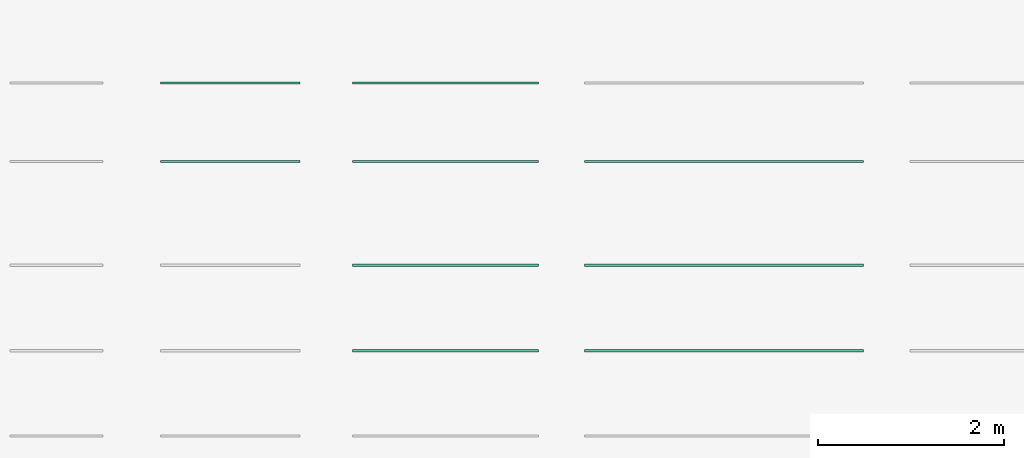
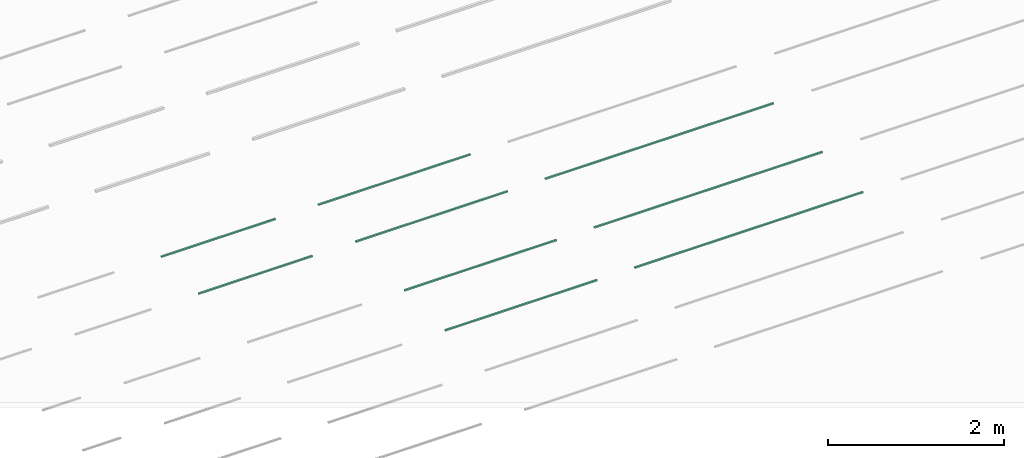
# One storey, part 7 of 197: 9 flow terminals.
"""IFC2X3 building model written with IfcOpenShell, lengths in metres."""

from ifc_helpers import new_model, entity, si_unit, converted_unit, direction, frame, frame_2d, origin, origin_2d_with_axis, place, context, subcontext, project, spatial, polyline, rectangle, circle, outline, extrude, source, transform, mapped, material, material_list, type_object, type_shapes, element, save


model = new_model("IFC2X3")

# Units and contexts
model_context = context("Model", 3, precision=1e-05, world=origin(), true_north=direction((6.123031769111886e-17, 1.0)))
body_context = subcontext(model_context, "Body", "Model", "MODEL_VIEW")
ifc_project = project(units=[si_unit("LENGTHUNIT", "METRE"), converted_unit("PLANEANGLEUNIT", "DEGREE", entity("IfcPlaneAngleMeasure", 0.017453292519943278), si_unit("PLANEANGLEUNIT", "RADIAN"), dimensions=[0, 0, 0, 0, 0, 0, 0]), si_unit("AREAUNIT", "SQUARE_METRE")], contexts=[model_context])

# Site, building, storey
site_placement = place(None, origin())
site = spatial("IfcSite", under=ifc_project, at=site_placement, Name="Default", CompositionType="ELEMENT")
building_placement = place(site_placement, origin())
building = spatial("IfcBuilding", under=site, at=building_placement, CompositionType="ELEMENT")
storey_placement = place(building_placement, origin())
storey = spatial("IfcBuildingStorey", under=building, at=storey_placement, Name="Niveau 0", CompositionType="ELEMENT", Elevation=0.0)

# Flow terminals
ifc_material_1 = material(Name="BETCE-DIFFUSEUR-BLANC")
ifc_material_2 = material(Name="<Unnamed>")
ifc_material_list = material_list([ifc_material_1, ifc_material_2])
light_fixture_type_1 = type_object("IfcLightFixtureType", Name="Profilé alu sailli_suspendu_engravure-20X20:PROF-SAILLIE -1.5M", PredefinedType="NOTDEFINED", material=ifc_material_list)
shared_shape_1 = source(origin(), body_context, "Body", "SweptSolid", [
    extrude(rectangle(XDim=1.496, YDim=0.018935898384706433, at=origin_2d_with_axis()), frame((0.0, 0.0, 1.4999999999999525), z_axis=(0.0, 0.0, 1.0), x_axis=(-1.0, 0.0, 0.0)), (0.0, 0.0, 1.0), 0.0008000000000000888),
    extrude(outline(polyline([(0.004349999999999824, -0.009467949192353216), (0.0051499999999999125, -0.009467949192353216), (0.0051499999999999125, 0.009467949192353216), (0.004349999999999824, 0.009467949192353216), (0.004349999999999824, 0.010467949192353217), (-0.0138500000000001, 0.010467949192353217), (-0.0138500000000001, -0.010467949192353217), (0.004349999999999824, -0.010467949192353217), (0.004349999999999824, -0.009467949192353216)])), frame((0.748, 0.0, 1.5051499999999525), z_axis=(1.0, 0.0, 0.0), x_axis=(0.0, 0.0, -1.0)), (0.0, 0.0, 1.0), 0.0019999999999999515),
    extrude(outline(polyline([(0.009467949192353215, -0.004349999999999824), (0.010467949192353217, -0.004349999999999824), (0.010467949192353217, 0.0138500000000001), (-0.010467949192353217, 0.0138500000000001), (-0.010467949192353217, -0.004349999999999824), (-0.009467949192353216, -0.004349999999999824), (-0.009467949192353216, -0.0051499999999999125), (0.009467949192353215, -0.0051499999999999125), (0.009467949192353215, -0.004349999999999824)])), frame((-0.7499999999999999, 0.0, 1.5051499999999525), z_axis=(1.0, 0.0, 0.0), x_axis=(0.0, 1.0, 0.0)), (0.0, 0.0, 1.0), 0.0019999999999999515),
    extrude(outline(polyline([(-0.012292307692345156, -0.011500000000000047), (0.007707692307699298, -0.011500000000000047), (0.007707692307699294, -0.009467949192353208), (0.0069076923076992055, -0.009467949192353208), (0.006907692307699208, -0.010467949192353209), (-0.011292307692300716, -0.010467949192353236), (-0.011292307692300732, 0.0), (-0.011292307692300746, 0.010467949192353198), (0.006907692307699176, 0.010467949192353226), (0.006907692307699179, 0.009467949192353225), (0.0077076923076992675, 0.009467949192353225), (0.007707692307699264, 0.011500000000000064), (-0.012292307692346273, 0.011500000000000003), (-0.012292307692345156, -0.011500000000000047)])), frame((-0.7499999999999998, 0.0, 1.5077076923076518), z_axis=(1.0, 0.0, 0.0), x_axis=(0.0, 0.0, -1.0)), (0.0, 0.0, 1.0), 1.4999999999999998),
    extrude(circle(Radius=0.0019999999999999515, at=frame_2d((1.5388467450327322e-29, 0.0), x_axis=(1.0, 0.0))), frame((-0.6499999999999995, 0.0, 1.5199999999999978), z_axis=(0.0, 0.0, 1.0), x_axis=(0.0, -1.0, 0.0)), (0.0, 0.0, 1.0), 0.0010000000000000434),
    extrude(circle(Radius=0.0019999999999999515, at=frame_2d((-4.123551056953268e-20, 0.0), x_axis=(1.0, 0.0))), frame((0.6500000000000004, 0.0, 1.5199999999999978), z_axis=(0.0, 0.0, 1.0), x_axis=(0.0, -1.0, 0.0)), (0.0, 0.0, 1.0), 0.0010000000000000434),
])
type_shapes(light_fixture_type_1, [shared_shape_1])
flow_terminal_1_placement = place(storey_placement, frame((-532.8067105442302, 64.29268111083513, 0.0)))
element("IfcFlowTerminal", 1, at=flow_terminal_1_placement, inside=storey, type_object=light_fixture_type_1, material=ifc_material_list, Name="Profilé alu sailli_suspendu_engravure-20X20:PROF-SAILLIE -1.5M", ObjectType="Profilé alu sailli_suspendu_engravure-20X20:PROF-SAILLIE -1.5M", context=body_context, shape_type="MappedRepresentation", body=[
    mapped(shared_shape_1, transform((0.0, 0.0, 0.0), scale=1.0)),
])
light_fixture_type_2 = type_object("IfcLightFixtureType", Name="Profilé alu sailli_suspendu_engravure-20X20:PROF-SAILLIE -2M", PredefinedType="NOTDEFINED", material=ifc_material_list)
shared_shape_2 = source(origin(), body_context, "Body", "SweptSolid", [
    extrude(rectangle(XDim=1.996, YDim=0.018935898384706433, at=origin_2d_with_axis()), frame((0.0, 0.0, 1.4999999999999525), z_axis=(0.0, 0.0, 1.0), x_axis=(-1.0, 0.0, 0.0)), (0.0, 0.0, 1.0), 0.0008000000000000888),
    extrude(outline(polyline([(0.004349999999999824, -0.009467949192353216), (0.0051499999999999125, -0.009467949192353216), (0.0051499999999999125, 0.009467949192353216), (0.004349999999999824, 0.009467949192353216), (0.004349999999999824, 0.010467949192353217), (-0.0138500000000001, 0.010467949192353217), (-0.0138500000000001, -0.010467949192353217), (0.004349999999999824, -0.010467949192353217), (0.004349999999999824, -0.009467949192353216)])), frame((0.9980000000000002, 0.0, 1.5051499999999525), z_axis=(1.0, 0.0, 0.0), x_axis=(0.0, 0.0, -1.0)), (0.0, 0.0, 1.0), 0.0019999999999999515),
    extrude(outline(polyline([(0.009467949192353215, -0.004349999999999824), (0.010467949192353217, -0.004349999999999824), (0.010467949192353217, 0.0138500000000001), (-0.010467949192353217, 0.0138500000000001), (-0.010467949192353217, -0.004349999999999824), (-0.009467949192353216, -0.004349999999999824), (-0.009467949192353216, -0.0051499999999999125), (0.009467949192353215, -0.0051499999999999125), (0.009467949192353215, -0.004349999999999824)])), frame((-1.0, 0.0, 1.5051499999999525), z_axis=(1.0, 0.0, 0.0), x_axis=(0.0, 1.0, 0.0)), (0.0, 0.0, 1.0), 0.0019999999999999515),
    extrude(outline(polyline([(-0.012292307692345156, -0.011500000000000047), (0.007707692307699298, -0.011500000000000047), (0.007707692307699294, -0.009467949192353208), (0.0069076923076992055, -0.009467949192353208), (0.006907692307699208, -0.010467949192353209), (-0.011292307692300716, -0.010467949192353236), (-0.011292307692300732, 0.0), (-0.011292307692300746, 0.010467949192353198), (0.006907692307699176, 0.010467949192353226), (0.006907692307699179, 0.009467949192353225), (0.0077076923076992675, 0.009467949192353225), (0.007707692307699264, 0.011500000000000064), (-0.012292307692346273, 0.011500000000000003), (-0.012292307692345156, -0.011500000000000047)])), frame((-1.0, 0.0, 1.5077076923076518), z_axis=(1.0, 0.0, 0.0), x_axis=(0.0, 0.0, -1.0)), (0.0, 0.0, 1.0), 1.9999999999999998),
    extrude(circle(Radius=0.0019999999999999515, at=frame_2d((8.359256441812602e-30, 0.0), x_axis=(1.0, 0.0))), frame((-0.8999999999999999, 0.0, 1.5199999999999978), z_axis=(0.0, 0.0, 1.0), x_axis=(0.0, -1.0, 0.0)), (0.0, 0.0, 1.0), 0.0010000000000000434),
    extrude(circle(Radius=0.0019999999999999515, at=frame_2d((-4.123551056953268e-20, 0.0), x_axis=(1.0, 0.0))), frame((0.9000000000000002, 0.0, 1.5199999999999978), z_axis=(0.0, 0.0, 1.0), x_axis=(0.0, -1.0, 0.0)), (0.0, 0.0, 1.0), 0.0010000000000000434),
])
type_shapes(light_fixture_type_2, [shared_shape_2])
flow_terminal_2_placement = place(storey_placement, frame((-530.4917105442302, 64.29268111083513, 0.0)))
element("IfcFlowTerminal", 2, at=flow_terminal_2_placement, inside=storey, type_object=light_fixture_type_2, material=ifc_material_list, Name="Profilé alu sailli_suspendu_engravure-20X20:PROF-SAILLIE -2M", ObjectType="Profilé alu sailli_suspendu_engravure-20X20:PROF-SAILLIE -2M", context=body_context, shape_type="MappedRepresentation", body=[
    mapped(shared_shape_2, transform((0.0, 0.0, 0.0), scale=1.0)),
])
light_fixture_type_3 = type_object("IfcLightFixtureType", Name="Profilé alu sailli_suspendu_engravure-20X20:PROF-SAILLIE DALI -1.5M", PredefinedType="NOTDEFINED", material=ifc_material_list)
shared_shape_3 = source(origin(), body_context, "Body", "SweptSolid", [
    extrude(rectangle(XDim=1.496, YDim=0.018935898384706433, at=origin_2d_with_axis()), frame((0.0, 0.0, 1.4999999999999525), z_axis=(0.0, 0.0, 1.0), x_axis=(-1.0, 0.0, 0.0)), (0.0, 0.0, 1.0), 0.0008000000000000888),
    extrude(outline(polyline([(0.004349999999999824, -0.009467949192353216), (0.0051499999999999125, -0.009467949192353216), (0.0051499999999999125, 0.009467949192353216), (0.004349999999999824, 0.009467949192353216), (0.004349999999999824, 0.010467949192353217), (-0.0138500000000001, 0.010467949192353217), (-0.0138500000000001, -0.010467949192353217), (0.004349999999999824, -0.010467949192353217), (0.004349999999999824, -0.009467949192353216)])), frame((0.748, 0.0, 1.5051499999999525), z_axis=(1.0, 0.0, 0.0), x_axis=(0.0, 0.0, -1.0)), (0.0, 0.0, 1.0), 0.0019999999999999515),
    extrude(outline(polyline([(0.009467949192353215, -0.004349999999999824), (0.010467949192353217, -0.004349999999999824), (0.010467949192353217, 0.0138500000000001), (-0.010467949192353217, 0.0138500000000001), (-0.010467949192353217, -0.004349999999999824), (-0.009467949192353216, -0.004349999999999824), (-0.009467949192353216, -0.0051499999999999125), (0.009467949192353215, -0.0051499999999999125), (0.009467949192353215, -0.004349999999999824)])), frame((-0.7499999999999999, 0.0, 1.5051499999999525), z_axis=(1.0, 0.0, 0.0), x_axis=(0.0, 1.0, 0.0)), (0.0, 0.0, 1.0), 0.0019999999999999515),
    extrude(outline(polyline([(-0.012292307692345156, -0.011500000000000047), (0.007707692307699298, -0.011500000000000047), (0.007707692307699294, -0.009467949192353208), (0.0069076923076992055, -0.009467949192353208), (0.006907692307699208, -0.010467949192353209), (-0.011292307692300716, -0.010467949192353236), (-0.011292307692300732, 0.0), (-0.011292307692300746, 0.010467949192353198), (0.006907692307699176, 0.010467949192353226), (0.006907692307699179, 0.009467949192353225), (0.0077076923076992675, 0.009467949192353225), (0.007707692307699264, 0.011500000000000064), (-0.012292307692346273, 0.011500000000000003), (-0.012292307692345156, -0.011500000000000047)])), frame((-0.7499999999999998, 0.0, 1.5077076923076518), z_axis=(1.0, 0.0, 0.0), x_axis=(0.0, 0.0, -1.0)), (0.0, 0.0, 1.0), 1.4999999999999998),
    extrude(circle(Radius=0.0019999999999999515, at=frame_2d((1.5388467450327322e-29, 0.0), x_axis=(1.0, 0.0))), frame((-0.6499999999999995, 0.0, 1.5199999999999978), z_axis=(0.0, 0.0, 1.0), x_axis=(0.0, -1.0, 0.0)), (0.0, 0.0, 1.0), 0.0010000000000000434),
    extrude(circle(Radius=0.0019999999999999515, at=frame_2d((-4.123551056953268e-20, 0.0), x_axis=(1.0, 0.0))), frame((0.6500000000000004, 0.0, 1.5199999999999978), z_axis=(0.0, 0.0, 1.0), x_axis=(0.0, -1.0, 0.0)), (0.0, 0.0, 1.0), 0.0010000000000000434),
])
type_shapes(light_fixture_type_3, [shared_shape_3])
flow_terminal_3_placement = place(storey_placement, frame((-532.8067105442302, 63.44635524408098, 0.0)))
element("IfcFlowTerminal", 3, at=flow_terminal_3_placement, inside=storey, type_object=light_fixture_type_3, material=ifc_material_list, Name="Profilé alu sailli_suspendu_engravure-20X20:PROF-SAILLIE DALI -1.5M", ObjectType="Profilé alu sailli_suspendu_engravure-20X20:PROF-SAILLIE DALI -1.5M", context=body_context, shape_type="MappedRepresentation", body=[
    mapped(shared_shape_3, transform((0.0, 0.0, 0.0), scale=1.0)),
])
light_fixture_type_4 = type_object("IfcLightFixtureType", Name="Profilé alu sailli_suspendu_engravure-20X20:PROF-SAILLIE DALI -2M", PredefinedType="NOTDEFINED", material=ifc_material_list)
shared_shape_4 = source(origin(), body_context, "Body", "SweptSolid", [
    extrude(rectangle(XDim=1.996, YDim=0.018935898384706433, at=origin_2d_with_axis()), frame((0.0, 0.0, 1.4999999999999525), z_axis=(0.0, 0.0, 1.0), x_axis=(-1.0, 0.0, 0.0)), (0.0, 0.0, 1.0), 0.0008000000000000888),
    extrude(outline(polyline([(0.004349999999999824, -0.009467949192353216), (0.0051499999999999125, -0.009467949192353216), (0.0051499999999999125, 0.009467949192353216), (0.004349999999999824, 0.009467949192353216), (0.004349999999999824, 0.010467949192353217), (-0.0138500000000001, 0.010467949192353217), (-0.0138500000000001, -0.010467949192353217), (0.004349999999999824, -0.010467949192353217), (0.004349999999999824, -0.009467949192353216)])), frame((0.9980000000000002, 0.0, 1.5051499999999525), z_axis=(1.0, 0.0, 0.0), x_axis=(0.0, 0.0, -1.0)), (0.0, 0.0, 1.0), 0.0019999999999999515),
    extrude(outline(polyline([(0.009467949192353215, -0.004349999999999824), (0.010467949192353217, -0.004349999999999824), (0.010467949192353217, 0.0138500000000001), (-0.010467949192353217, 0.0138500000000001), (-0.010467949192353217, -0.004349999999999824), (-0.009467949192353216, -0.004349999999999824), (-0.009467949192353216, -0.0051499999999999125), (0.009467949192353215, -0.0051499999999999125), (0.009467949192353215, -0.004349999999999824)])), frame((-1.0, 0.0, 1.5051499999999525), z_axis=(1.0, 0.0, 0.0), x_axis=(0.0, 1.0, 0.0)), (0.0, 0.0, 1.0), 0.0019999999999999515),
    extrude(outline(polyline([(-0.012292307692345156, -0.011500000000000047), (0.007707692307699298, -0.011500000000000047), (0.007707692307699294, -0.009467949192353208), (0.0069076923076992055, -0.009467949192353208), (0.006907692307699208, -0.010467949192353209), (-0.011292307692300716, -0.010467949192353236), (-0.011292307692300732, 0.0), (-0.011292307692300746, 0.010467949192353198), (0.006907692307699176, 0.010467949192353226), (0.006907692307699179, 0.009467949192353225), (0.0077076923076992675, 0.009467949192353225), (0.007707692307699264, 0.011500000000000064), (-0.012292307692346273, 0.011500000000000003), (-0.012292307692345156, -0.011500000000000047)])), frame((-1.0, 0.0, 1.5077076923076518), z_axis=(1.0, 0.0, 0.0), x_axis=(0.0, 0.0, -1.0)), (0.0, 0.0, 1.0), 1.9999999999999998),
    extrude(circle(Radius=0.0019999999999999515, at=frame_2d((8.359256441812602e-30, 0.0), x_axis=(1.0, 0.0))), frame((-0.8999999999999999, 0.0, 1.5199999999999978), z_axis=(0.0, 0.0, 1.0), x_axis=(0.0, -1.0, 0.0)), (0.0, 0.0, 1.0), 0.0010000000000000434),
    extrude(circle(Radius=0.0019999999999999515, at=frame_2d((-4.123551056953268e-20, 0.0), x_axis=(1.0, 0.0))), frame((0.9000000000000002, 0.0, 1.5199999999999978), z_axis=(0.0, 0.0, 1.0), x_axis=(0.0, -1.0, 0.0)), (0.0, 0.0, 1.0), 0.0010000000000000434),
])
type_shapes(light_fixture_type_4, [shared_shape_4])
flow_terminal_4_placement = place(storey_placement, frame((-530.4917105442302, 63.44635524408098, 0.0)))
element("IfcFlowTerminal", 4, at=flow_terminal_4_placement, inside=storey, type_object=light_fixture_type_4, material=ifc_material_list, Name="Profilé alu sailli_suspendu_engravure-20X20:PROF-SAILLIE DALI -2M", ObjectType="Profilé alu sailli_suspendu_engravure-20X20:PROF-SAILLIE DALI -2M", context=body_context, shape_type="MappedRepresentation", body=[
    mapped(shared_shape_4, transform((0.0, 0.0, 0.0), scale=1.0)),
])
light_fixture_type_5 = type_object("IfcLightFixtureType", Name="Profilé alu sailli_suspendu_engravure-20X20:PROF-SAILLIE DALI -3M", PredefinedType="NOTDEFINED", material=ifc_material_list)
shared_shape_5 = source(origin(), body_context, "Body", "SweptSolid", [
    extrude(rectangle(XDim=2.9959999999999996, YDim=0.018935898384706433, at=origin_2d_with_axis()), frame((0.0, 0.0, 1.4999999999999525), z_axis=(0.0, 0.0, 1.0), x_axis=(-1.0, 0.0, 0.0)), (0.0, 0.0, 1.0), 0.0008000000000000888),
    extrude(outline(polyline([(0.004349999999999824, -0.009467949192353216), (0.0051499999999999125, -0.009467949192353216), (0.0051499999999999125, 0.009467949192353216), (0.004349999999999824, 0.009467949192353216), (0.004349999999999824, 0.010467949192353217), (-0.0138500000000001, 0.010467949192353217), (-0.0138500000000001, -0.010467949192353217), (0.004349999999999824, -0.010467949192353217), (0.004349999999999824, -0.009467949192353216)])), frame((1.4979999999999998, 0.0, 1.5051499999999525), z_axis=(1.0, 0.0, 0.0), x_axis=(0.0, 0.0, -1.0)), (0.0, 0.0, 1.0), 0.0020000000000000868),
    extrude(outline(polyline([(0.009467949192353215, -0.004349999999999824), (0.010467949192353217, -0.004349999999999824), (0.010467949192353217, 0.0138500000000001), (-0.010467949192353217, 0.0138500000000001), (-0.010467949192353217, -0.004349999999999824), (-0.009467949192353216, -0.004349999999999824), (-0.009467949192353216, -0.0051499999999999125), (0.009467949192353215, -0.0051499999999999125), (0.009467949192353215, -0.004349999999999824)])), frame((-1.4999999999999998, 0.0, 1.5051499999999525), z_axis=(1.0, 0.0, 0.0), x_axis=(0.0, 1.0, 0.0)), (0.0, 0.0, 1.0), 0.0020000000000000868),
    extrude(outline(polyline([(-0.012292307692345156, -0.011500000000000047), (0.007707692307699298, -0.011500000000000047), (0.007707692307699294, -0.009467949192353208), (0.0069076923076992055, -0.009467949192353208), (0.006907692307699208, -0.010467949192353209), (-0.011292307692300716, -0.010467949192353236), (-0.011292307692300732, 0.0), (-0.011292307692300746, 0.010467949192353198), (0.006907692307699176, 0.010467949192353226), (0.006907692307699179, 0.009467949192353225), (0.0077076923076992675, 0.009467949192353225), (0.007707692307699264, 0.011500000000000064), (-0.012292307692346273, 0.011500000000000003), (-0.012292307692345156, -0.011500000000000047)])), frame((-1.4999999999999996, 0.0, 1.5077076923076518), z_axis=(1.0, 0.0, 0.0), x_axis=(0.0, 0.0, -1.0)), (0.0, 0.0, 1.0), 2.9999999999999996),
    extrude(circle(Radius=0.0019999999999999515, at=frame_2d((1.5388467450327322e-29, 0.0), x_axis=(1.0, 0.0))), frame((-1.3999999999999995, 0.0, 1.5199999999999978), z_axis=(0.0, 0.0, 1.0), x_axis=(0.0, -1.0, 0.0)), (0.0, 0.0, 1.0), 0.0010000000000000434),
    extrude(circle(Radius=0.0019999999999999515, at=frame_2d((-4.123551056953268e-20, 0.0), x_axis=(1.0, 0.0))), frame((1.4000000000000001, 0.0, 1.5199999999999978), z_axis=(0.0, 0.0, 1.0), x_axis=(0.0, -1.0, 0.0)), (0.0, 0.0, 1.0), 0.0010000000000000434),
])
type_shapes(light_fixture_type_5, [shared_shape_5])
flow_terminal_5_placement = place(storey_placement, frame((-527.4987105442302, 63.44635524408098, 0.0)))
element("IfcFlowTerminal", 5, at=flow_terminal_5_placement, inside=storey, type_object=light_fixture_type_5, material=ifc_material_list, Name="Profilé alu sailli_suspendu_engravure-20X20:PROF-SAILLIE DALI -3M", ObjectType="Profilé alu sailli_suspendu_engravure-20X20:PROF-SAILLIE DALI -3M", context=body_context, shape_type="MappedRepresentation", body=[
    mapped(shared_shape_5, transform((0.0, 0.0, 0.0), scale=1.0)),
])
light_fixture_type_6 = type_object("IfcLightFixtureType", Name="Profilé alu sailli_suspendu_engravure-20X20:PROF-SUSPENDU -2M", PredefinedType="NOTDEFINED", material=ifc_material_list)
shared_shape_6 = source(origin(), body_context, "Body", "SweptSolid", [
    extrude(rectangle(XDim=1.996, YDim=0.018935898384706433, at=origin_2d_with_axis()), frame((0.0, 0.0, 1.4999999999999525), z_axis=(0.0, 0.0, 1.0), x_axis=(-1.0, 0.0, 0.0)), (0.0, 0.0, 1.0), 0.0008000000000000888),
    extrude(outline(polyline([(0.004349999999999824, -0.009467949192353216), (0.0051499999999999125, -0.009467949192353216), (0.0051499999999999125, 0.009467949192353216), (0.004349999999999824, 0.009467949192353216), (0.004349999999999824, 0.010467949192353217), (-0.0138500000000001, 0.010467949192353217), (-0.0138500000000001, -0.010467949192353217), (0.004349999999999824, -0.010467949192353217), (0.004349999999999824, -0.009467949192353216)])), frame((0.9980000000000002, 0.0, 1.5051499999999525), z_axis=(1.0, 0.0, 0.0), x_axis=(0.0, 0.0, -1.0)), (0.0, 0.0, 1.0), 0.0019999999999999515),
    extrude(outline(polyline([(0.009467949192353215, -0.004349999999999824), (0.010467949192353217, -0.004349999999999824), (0.010467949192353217, 0.0138500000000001), (-0.010467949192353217, 0.0138500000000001), (-0.010467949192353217, -0.004349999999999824), (-0.009467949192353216, -0.004349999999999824), (-0.009467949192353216, -0.0051499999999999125), (0.009467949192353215, -0.0051499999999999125), (0.009467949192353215, -0.004349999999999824)])), frame((-1.0, 0.0, 1.5051499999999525), z_axis=(1.0, 0.0, 0.0), x_axis=(0.0, 1.0, 0.0)), (0.0, 0.0, 1.0), 0.0019999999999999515),
    extrude(outline(polyline([(-0.012292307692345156, -0.011500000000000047), (0.007707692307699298, -0.011500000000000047), (0.007707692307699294, -0.009467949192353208), (0.0069076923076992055, -0.009467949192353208), (0.006907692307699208, -0.010467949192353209), (-0.011292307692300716, -0.010467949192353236), (-0.011292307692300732, 0.0), (-0.011292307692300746, 0.010467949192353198), (0.006907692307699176, 0.010467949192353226), (0.006907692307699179, 0.009467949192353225), (0.0077076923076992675, 0.009467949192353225), (0.007707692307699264, 0.011500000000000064), (-0.012292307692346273, 0.011500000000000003), (-0.012292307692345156, -0.011500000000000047)])), frame((-1.0, 0.0, 1.5077076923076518), z_axis=(1.0, 0.0, 0.0), x_axis=(0.0, 0.0, -1.0)), (0.0, 0.0, 1.0), 1.9999999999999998),
    extrude(circle(Radius=0.0019999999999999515, at=frame_2d((8.359256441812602e-30, 0.0), x_axis=(1.0, 0.0))), frame((-0.8999999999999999, 0.0, 1.5199999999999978), z_axis=(0.0, 0.0, 1.0), x_axis=(0.0, -1.0, 0.0)), (0.0, 0.0, 1.0), 0.0010000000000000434),
    extrude(circle(Radius=0.0019999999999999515, at=frame_2d((-4.123551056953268e-20, 0.0), x_axis=(1.0, 0.0))), frame((0.9000000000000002, 0.0, 1.5199999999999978), z_axis=(0.0, 0.0, 1.0), x_axis=(0.0, -1.0, 0.0)), (0.0, 0.0, 1.0), 0.0010000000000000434),
])
type_shapes(light_fixture_type_6, [shared_shape_6])
flow_terminal_6_placement = place(storey_placement, frame((-530.4917105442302, 62.331355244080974, 0.0)))
element("IfcFlowTerminal", 6, at=flow_terminal_6_placement, inside=storey, type_object=light_fixture_type_6, material=ifc_material_list, Name="Profilé alu sailli_suspendu_engravure-20X20:PROF-SUSPENDU -2M", ObjectType="Profilé alu sailli_suspendu_engravure-20X20:PROF-SUSPENDU -2M", context=body_context, shape_type="MappedRepresentation", body=[
    mapped(shared_shape_6, transform((0.0, 0.0, 0.0), scale=1.0)),
])
light_fixture_type_7 = type_object("IfcLightFixtureType", Name="Profilé alu sailli_suspendu_engravure-20X20:PROF-SUSPENDU -3M", PredefinedType="NOTDEFINED", material=ifc_material_list)
shared_shape_7 = source(origin(), body_context, "Body", "SweptSolid", [
    extrude(rectangle(XDim=2.9959999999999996, YDim=0.018935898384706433, at=origin_2d_with_axis()), frame((0.0, 0.0, 1.4999999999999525), z_axis=(0.0, 0.0, 1.0), x_axis=(-1.0, 0.0, 0.0)), (0.0, 0.0, 1.0), 0.0008000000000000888),
    extrude(outline(polyline([(0.004349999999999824, -0.009467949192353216), (0.0051499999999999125, -0.009467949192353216), (0.0051499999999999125, 0.009467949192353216), (0.004349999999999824, 0.009467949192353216), (0.004349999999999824, 0.010467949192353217), (-0.0138500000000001, 0.010467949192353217), (-0.0138500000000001, -0.010467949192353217), (0.004349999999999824, -0.010467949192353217), (0.004349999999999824, -0.009467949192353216)])), frame((1.4979999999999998, 0.0, 1.5051499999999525), z_axis=(1.0, 0.0, 0.0), x_axis=(0.0, 0.0, -1.0)), (0.0, 0.0, 1.0), 0.0020000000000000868),
    extrude(outline(polyline([(0.009467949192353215, -0.004349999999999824), (0.010467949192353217, -0.004349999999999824), (0.010467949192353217, 0.0138500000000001), (-0.010467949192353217, 0.0138500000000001), (-0.010467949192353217, -0.004349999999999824), (-0.009467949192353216, -0.004349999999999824), (-0.009467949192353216, -0.0051499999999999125), (0.009467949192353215, -0.0051499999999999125), (0.009467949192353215, -0.004349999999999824)])), frame((-1.4999999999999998, 0.0, 1.5051499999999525), z_axis=(1.0, 0.0, 0.0), x_axis=(0.0, 1.0, 0.0)), (0.0, 0.0, 1.0), 0.0020000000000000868),
    extrude(outline(polyline([(-0.012292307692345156, -0.011500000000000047), (0.007707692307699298, -0.011500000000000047), (0.007707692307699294, -0.009467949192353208), (0.0069076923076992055, -0.009467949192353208), (0.006907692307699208, -0.010467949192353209), (-0.011292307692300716, -0.010467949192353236), (-0.011292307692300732, 0.0), (-0.011292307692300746, 0.010467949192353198), (0.006907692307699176, 0.010467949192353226), (0.006907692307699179, 0.009467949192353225), (0.0077076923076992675, 0.009467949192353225), (0.007707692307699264, 0.011500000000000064), (-0.012292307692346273, 0.011500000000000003), (-0.012292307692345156, -0.011500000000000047)])), frame((-1.4999999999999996, 0.0, 1.5077076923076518), z_axis=(1.0, 0.0, 0.0), x_axis=(0.0, 0.0, -1.0)), (0.0, 0.0, 1.0), 2.9999999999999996),
    extrude(circle(Radius=0.0019999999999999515, at=frame_2d((1.5388467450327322e-29, 0.0), x_axis=(1.0, 0.0))), frame((-1.3999999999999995, 0.0, 1.5199999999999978), z_axis=(0.0, 0.0, 1.0), x_axis=(0.0, -1.0, 0.0)), (0.0, 0.0, 1.0), 0.0010000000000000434),
    extrude(circle(Radius=0.0019999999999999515, at=frame_2d((-4.123551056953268e-20, 0.0), x_axis=(1.0, 0.0))), frame((1.4000000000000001, 0.0, 1.5199999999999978), z_axis=(0.0, 0.0, 1.0), x_axis=(0.0, -1.0, 0.0)), (0.0, 0.0, 1.0), 0.0010000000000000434),
])
type_shapes(light_fixture_type_7, [shared_shape_7])
flow_terminal_7_placement = place(storey_placement, frame((-527.4987105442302, 62.331355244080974, 0.0)))
element("IfcFlowTerminal", 7, at=flow_terminal_7_placement, inside=storey, type_object=light_fixture_type_7, material=ifc_material_list, Name="Profilé alu sailli_suspendu_engravure-20X20:PROF-SUSPENDU -3M", ObjectType="Profilé alu sailli_suspendu_engravure-20X20:PROF-SUSPENDU -3M", context=body_context, shape_type="MappedRepresentation", body=[
    mapped(shared_shape_7, transform((0.0, 0.0, 0.0), scale=1.0)),
])
light_fixture_type_8 = type_object("IfcLightFixtureType", Name="Profilé alu sailli_suspendu_engravure-20X20:PROF-SUSPENDU DALI -2M", PredefinedType="NOTDEFINED", material=ifc_material_list)
shared_shape_8 = source(origin(), body_context, "Body", "SweptSolid", [
    extrude(rectangle(XDim=1.996, YDim=0.018935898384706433, at=origin_2d_with_axis()), frame((0.0, 0.0, 1.4999999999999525), z_axis=(0.0, 0.0, 1.0), x_axis=(-1.0, 0.0, 0.0)), (0.0, 0.0, 1.0), 0.0008000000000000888),
    extrude(outline(polyline([(0.004349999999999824, -0.009467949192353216), (0.0051499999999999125, -0.009467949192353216), (0.0051499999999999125, 0.009467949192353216), (0.004349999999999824, 0.009467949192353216), (0.004349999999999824, 0.010467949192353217), (-0.0138500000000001, 0.010467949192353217), (-0.0138500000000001, -0.010467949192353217), (0.004349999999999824, -0.010467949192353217), (0.004349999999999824, -0.009467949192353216)])), frame((0.9980000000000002, 0.0, 1.5051499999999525), z_axis=(1.0, 0.0, 0.0), x_axis=(0.0, 0.0, -1.0)), (0.0, 0.0, 1.0), 0.0019999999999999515),
    extrude(outline(polyline([(0.009467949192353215, -0.004349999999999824), (0.010467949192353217, -0.004349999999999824), (0.010467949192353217, 0.0138500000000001), (-0.010467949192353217, 0.0138500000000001), (-0.010467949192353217, -0.004349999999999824), (-0.009467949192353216, -0.004349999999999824), (-0.009467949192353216, -0.0051499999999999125), (0.009467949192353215, -0.0051499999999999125), (0.009467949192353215, -0.004349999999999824)])), frame((-1.0, 0.0, 1.5051499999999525), z_axis=(1.0, 0.0, 0.0), x_axis=(0.0, 1.0, 0.0)), (0.0, 0.0, 1.0), 0.0019999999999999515),
    extrude(outline(polyline([(-0.012292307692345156, -0.011500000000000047), (0.007707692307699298, -0.011500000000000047), (0.007707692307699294, -0.009467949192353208), (0.0069076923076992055, -0.009467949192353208), (0.006907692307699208, -0.010467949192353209), (-0.011292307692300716, -0.010467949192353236), (-0.011292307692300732, 0.0), (-0.011292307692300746, 0.010467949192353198), (0.006907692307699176, 0.010467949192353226), (0.006907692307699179, 0.009467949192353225), (0.0077076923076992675, 0.009467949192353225), (0.007707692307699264, 0.011500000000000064), (-0.012292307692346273, 0.011500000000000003), (-0.012292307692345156, -0.011500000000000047)])), frame((-1.0, 0.0, 1.5077076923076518), z_axis=(1.0, 0.0, 0.0), x_axis=(0.0, 0.0, -1.0)), (0.0, 0.0, 1.0), 1.9999999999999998),
    extrude(circle(Radius=0.0019999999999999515, at=frame_2d((8.359256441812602e-30, 0.0), x_axis=(1.0, 0.0))), frame((-0.8999999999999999, 0.0, 1.5199999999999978), z_axis=(0.0, 0.0, 1.0), x_axis=(0.0, -1.0, 0.0)), (0.0, 0.0, 1.0), 0.0010000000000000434),
    extrude(circle(Radius=0.0019999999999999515, at=frame_2d((-4.123551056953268e-20, 0.0), x_axis=(1.0, 0.0))), frame((0.9000000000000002, 0.0, 1.5199999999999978), z_axis=(0.0, 0.0, 1.0), x_axis=(0.0, -1.0, 0.0)), (0.0, 0.0, 1.0), 0.0010000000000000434),
])
type_shapes(light_fixture_type_8, [shared_shape_8])
flow_terminal_8_placement = place(storey_placement, frame((-530.4917105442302, 61.41235524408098, 0.0)))
element("IfcFlowTerminal", 8, at=flow_terminal_8_placement, inside=storey, type_object=light_fixture_type_8, material=ifc_material_list, Name="Profilé alu sailli_suspendu_engravure-20X20:PROF-SUSPENDU DALI -2M", ObjectType="Profilé alu sailli_suspendu_engravure-20X20:PROF-SUSPENDU DALI -2M", context=body_context, shape_type="MappedRepresentation", body=[
    mapped(shared_shape_8, transform((0.0, 0.0, 0.0), scale=1.0)),
])
light_fixture_type_9 = type_object("IfcLightFixtureType", Name="Profilé alu sailli_suspendu_engravure-20X20:PROF-SUSPENDU DALI -3M", PredefinedType="NOTDEFINED", material=ifc_material_list)
shared_shape_9 = source(origin(), body_context, "Body", "SweptSolid", [
    extrude(rectangle(XDim=2.9959999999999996, YDim=0.018935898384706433, at=origin_2d_with_axis()), frame((0.0, 0.0, 1.4999999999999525), z_axis=(0.0, 0.0, 1.0), x_axis=(-1.0, 0.0, 0.0)), (0.0, 0.0, 1.0), 0.0008000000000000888),
    extrude(outline(polyline([(0.004349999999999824, -0.009467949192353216), (0.0051499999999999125, -0.009467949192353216), (0.0051499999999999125, 0.009467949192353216), (0.004349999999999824, 0.009467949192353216), (0.004349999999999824, 0.010467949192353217), (-0.0138500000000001, 0.010467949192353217), (-0.0138500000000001, -0.010467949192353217), (0.004349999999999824, -0.010467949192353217), (0.004349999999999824, -0.009467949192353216)])), frame((1.4979999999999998, 0.0, 1.5051499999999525), z_axis=(1.0, 0.0, 0.0), x_axis=(0.0, 0.0, -1.0)), (0.0, 0.0, 1.0), 0.0020000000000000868),
    extrude(outline(polyline([(0.009467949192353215, -0.004349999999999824), (0.010467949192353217, -0.004349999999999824), (0.010467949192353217, 0.0138500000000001), (-0.010467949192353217, 0.0138500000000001), (-0.010467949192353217, -0.004349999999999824), (-0.009467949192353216, -0.004349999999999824), (-0.009467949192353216, -0.0051499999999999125), (0.009467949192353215, -0.0051499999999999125), (0.009467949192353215, -0.004349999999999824)])), frame((-1.4999999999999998, 0.0, 1.5051499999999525), z_axis=(1.0, 0.0, 0.0), x_axis=(0.0, 1.0, 0.0)), (0.0, 0.0, 1.0), 0.0020000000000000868),
    extrude(outline(polyline([(-0.012292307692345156, -0.011500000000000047), (0.007707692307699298, -0.011500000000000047), (0.007707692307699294, -0.009467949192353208), (0.0069076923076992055, -0.009467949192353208), (0.006907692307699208, -0.010467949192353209), (-0.011292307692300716, -0.010467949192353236), (-0.011292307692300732, 0.0), (-0.011292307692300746, 0.010467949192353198), (0.006907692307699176, 0.010467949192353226), (0.006907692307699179, 0.009467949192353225), (0.0077076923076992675, 0.009467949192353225), (0.007707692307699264, 0.011500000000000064), (-0.012292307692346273, 0.011500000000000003), (-0.012292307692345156, -0.011500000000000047)])), frame((-1.4999999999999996, 0.0, 1.5077076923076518), z_axis=(1.0, 0.0, 0.0), x_axis=(0.0, 0.0, -1.0)), (0.0, 0.0, 1.0), 2.9999999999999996),
    extrude(circle(Radius=0.0019999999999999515, at=frame_2d((1.5388467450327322e-29, 0.0), x_axis=(1.0, 0.0))), frame((-1.3999999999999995, 0.0, 1.5199999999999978), z_axis=(0.0, 0.0, 1.0), x_axis=(0.0, -1.0, 0.0)), (0.0, 0.0, 1.0), 0.0010000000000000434),
    extrude(circle(Radius=0.0019999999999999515, at=frame_2d((-4.123551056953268e-20, 0.0), x_axis=(1.0, 0.0))), frame((1.4000000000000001, 0.0, 1.5199999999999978), z_axis=(0.0, 0.0, 1.0), x_axis=(0.0, -1.0, 0.0)), (0.0, 0.0, 1.0), 0.0010000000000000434),
])
type_shapes(light_fixture_type_9, [shared_shape_9])
flow_terminal_9_placement = place(storey_placement, frame((-527.4987105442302, 61.41235524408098, 0.0)))
element("IfcFlowTerminal", 9, at=flow_terminal_9_placement, inside=storey, type_object=light_fixture_type_9, material=ifc_material_list, Name="Profilé alu sailli_suspendu_engravure-20X20:PROF-SUSPENDU DALI -3M", ObjectType="Profilé alu sailli_suspendu_engravure-20X20:PROF-SUSPENDU DALI -3M", context=body_context, shape_type="MappedRepresentation", body=[
    mapped(shared_shape_9, transform((0.0, 0.0, 0.0), scale=1.0)),
])

save(model, "model.ifc")
